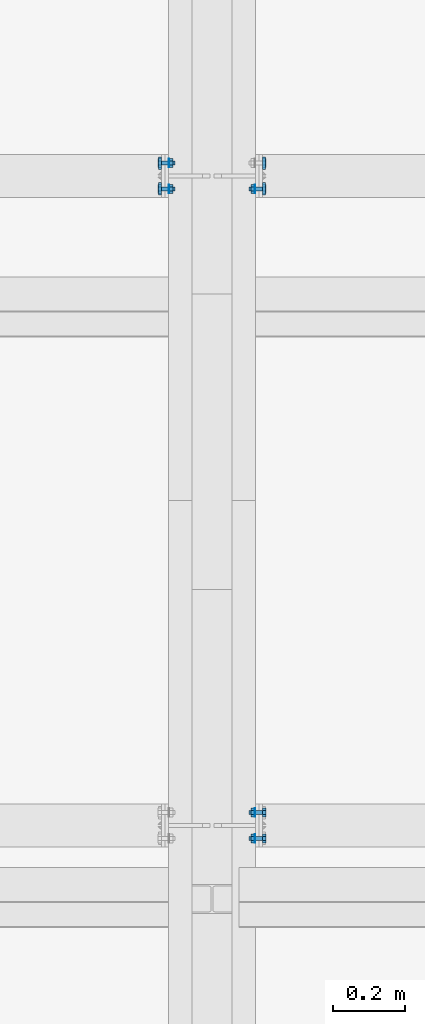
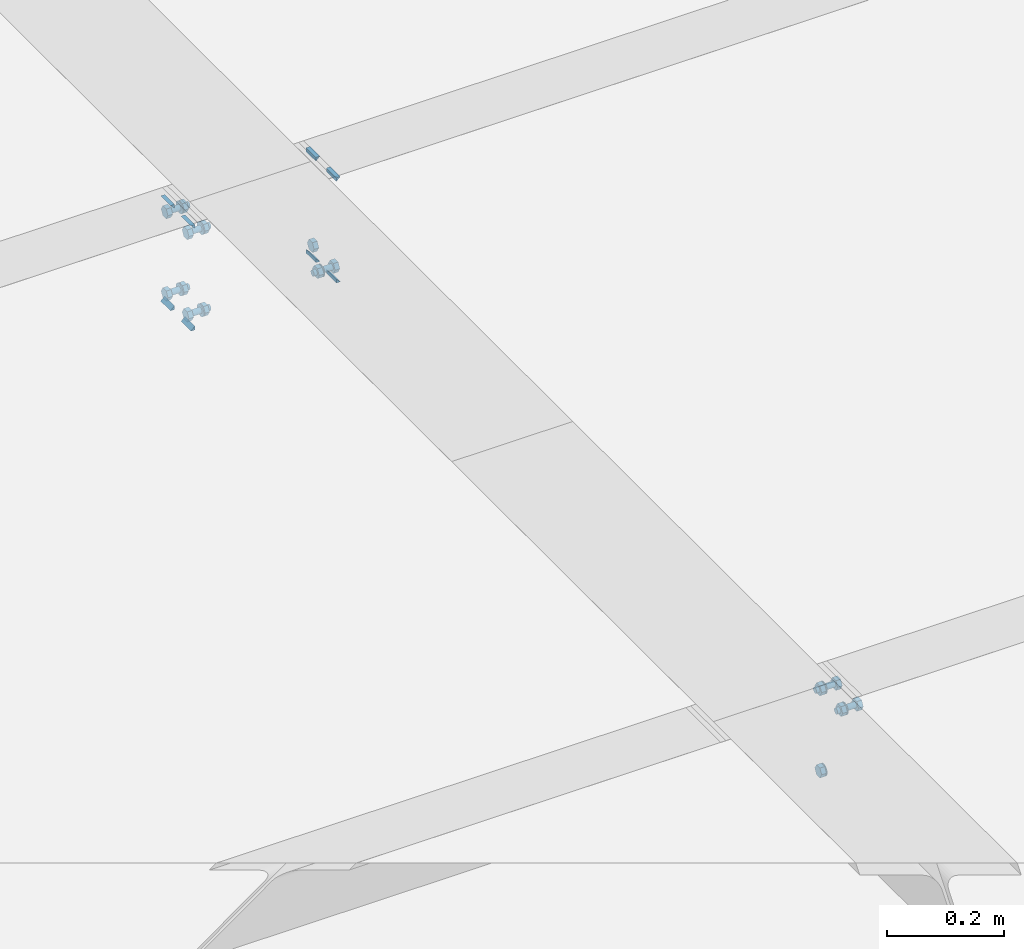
# One storey, part 38 of 66: 31 mechanical fasteners, 16 fasteners.
"""IFC4 building model written with IfcOpenShell, lengths in metres."""

from ifc_helpers import new_model, si_unit, frame, origin_with_axes, place, context, project, spatial, polyline, outline, extrude, type_object, element, save


model = new_model("IFC4")

# Units and contexts
model_context = context("Model", 3, precision=1e-05, world=origin_with_axes())
ifc_project = project(units=[si_unit("LENGTHUNIT", "METRE"), si_unit("AREAUNIT", "SQUARE_METRE"), si_unit("VOLUMEUNIT", "CUBIC_METRE"), si_unit("MASSUNIT", "GRAM", prefix="KILO"), si_unit("TIMEUNIT", "SECOND"), si_unit("PLANEANGLEUNIT", "RADIAN"), si_unit("SOLIDANGLEUNIT", "STERADIAN"), si_unit("THERMODYNAMICTEMPERATUREUNIT", "DEGREE_CELSIUS")], contexts=[model_context])

# Site, building, storey
placement_1 = place(None, origin_with_axes())
site = spatial("IfcSite", under=ifc_project, at=placement_1, Name="Italia", CompositionType="ELEMENT")
building = spatial("IfcBuilding", under=site, at=placement_1, Name="Uffici", CompositionType="ELEMENT")
storey_placement = place(None, frame((0.0, 0.0, 3.299999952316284), z_axis=(0.0, 0.0, 1.0), x_axis=(1.0, 0.0, 0.0)))
storey = spatial("IfcBuildingStorey", under=building, at=storey_placement, Name="Storey 1", CompositionType="ELEMENT", Elevation=3.299999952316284)

# Mechanical fasteners
mechanical_fastener_type_1 = type_object("IfcMechanicalFastenerType", Name="Collegamento -003_-004", PredefinedType="BOLT")
placement_2 = place(placement_1, origin_with_axes())
mechanical_fastener_1_placement = place(placement_2, origin_with_axes())
element("IfcMechanicalFastener", 1, at=mechanical_fastener_1_placement, inside=storey, type_object=mechanical_fastener_type_1, Name="Collegamento -003_-004", NominalDiameter=0.0119999, context=model_context, shape_type="SweptSolid", body=[
    extrude(outline(polyline([(0.0, 0.0), (-0.0120001, 0.0), (-0.018, 0.0103924), (-0.0120001, 0.0207846), (0.0, 0.0207846), (0.00599992, 0.0103924), (0.0, 0.0)])), frame((6.8634, 1.83867, 3.08361), z_axis=(1.0, 0.0, 0.0), x_axis=(0.0, 1.0, 0.0)), (0.0, 0.0, 1.0), 0.00960016),
])
mechanical_fastener_type_2 = type_object("IfcMechanicalFastenerType", Name="Collegamento -003_-004", PredefinedType="BOLT")
mechanical_fastener_2_placement = place(placement_2, origin_with_axes())
element("IfcMechanicalFastener", 2, at=mechanical_fastener_2_placement, inside=storey, type_object=mechanical_fastener_type_2, Name="Collegamento -003_-004", NominalDiameter=0.024, context=model_context, shape_type="SweptSolid", body=[
    extrude(outline(polyline([(0.0, 0.0), (-0.000408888, -0.00310588), (-0.00160766, -0.00600004), (-0.00351465, -0.00848532), (-0.00599992, -0.0103922), (-0.00889409, -0.0115912), (-0.012, -0.0120001), (-0.0151058, -0.0115912), (-0.018, -0.0103922), (-0.0204853, -0.00848532), (-0.0223923, -0.00600004), (-0.023591, -0.00310588), (-0.0239999, 0.0), (-0.023591, 0.00310588), (-0.0223923, 0.00600004), (-0.0204853, 0.00848532), (-0.018, 0.0103922), (-0.0151058, 0.0115912), (-0.012, 0.0120001), (-0.00889409, 0.0115912), (-0.00599992, 0.0103922), (-0.00351465, 0.00848532), (-0.00160766, 0.00600004), (-0.000408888, 0.00310588), (0.0, 0.0)])), frame((6.873, 1.84467, 3.094), z_axis=(1.0, 0.0, 0.0), x_axis=(0.0, 1.0, 0.0)), (0.0, 0.0, 1.0), 0.00199986),
])
mechanical_fastener_type_3 = type_object("IfcMechanicalFastenerType", Name="Collegamento -003_-004", PredefinedType="BOLT")
mechanical_fastener_3_placement = place(placement_2, origin_with_axes())
element("IfcMechanicalFastener", 3, at=mechanical_fastener_3_placement, inside=storey, type_object=mechanical_fastener_type_3, Name="Collegamento -003_-004", NominalDiameter=0.0119999, context=model_context, shape_type="SweptSolid", body=[
    extrude(outline(polyline([(0.0, 0.0), (-0.0120001, 0.0), (-0.018, 0.0103922), (-0.0120001, 0.0207846), (0.0, 0.0207846), (0.00599992, 0.0103922), (0.0, 0.0)])), frame((6.895, 1.76667, 3.25561), z_axis=(1.0, 0.0, 0.0), x_axis=(0.0, 1.0, 0.0)), (0.0, 0.0, 1.0), 0.00960016),
])
mechanical_fastener_type_4 = type_object("IfcMechanicalFastenerType", Name="Collegamento -003_-004", PredefinedType="BOLT")
mechanical_fastener_4_placement = place(placement_2, origin_with_axes())
element("IfcMechanicalFastener", 4, at=mechanical_fastener_4_placement, inside=storey, type_object=mechanical_fastener_type_4, Name="Collegamento -003_-004", NominalDiameter=0.012, context=model_context, shape_type="SweptSolid", body=[
    extrude(outline(polyline([(0.0, 0.0), (-0.000204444, -0.00155282), (-0.000803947, -0.00300002), (-0.00175738, -0.00424266), (-0.00300002, -0.00519609), (-0.0044471, -0.00579548), (-0.00600004, -0.00600004), (-0.00755298, -0.00579548), (-0.00900006, -0.00519609), (-0.0102427, -0.00424266), (-0.0111961, -0.00300002), (-0.0117956, -0.00155282), (-0.0120001, 0.0), (-0.0117956, 0.00155282), (-0.0111961, 0.00300002), (-0.0102427, 0.00424266), (-0.00900006, 0.00519609), (-0.00755298, 0.00579548), (-0.00600004, 0.00600004), (-0.0044471, 0.00579548), (-0.00300002, 0.00519609), (-0.00175738, 0.00424266), (-0.000803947, 0.00300002), (-0.000204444, 0.00155282), (0.0, 0.0)])), frame((6.857, 1.76667, 3.266), z_axis=(1.0, 0.0, 0.0), x_axis=(0.0, 1.0, 0.0)), (0.0, 0.0, 1.0), 0.0380001),
])
mechanical_fastener_type_5 = type_object("IfcMechanicalFastenerType", Name="Collegamento -003_-004", PredefinedType="BOLT")
mechanical_fastener_5_placement = place(placement_2, origin_with_axes())
element("IfcMechanicalFastener", 5, at=mechanical_fastener_5_placement, inside=storey, type_object=mechanical_fastener_type_5, Name="Collegamento -003_-004", NominalDiameter=0.0119999, context=model_context, shape_type="SweptSolid", body=[
    extrude(outline(polyline([(0.0, 0.0), (-0.0120001, 0.0), (-0.018, 0.0103922), (-0.0120001, 0.0207846), (0.0, 0.0207846), (0.00599992, 0.0103922), (0.0, 0.0)])), frame((6.8634, 1.76667, 3.25561), z_axis=(1.0, 0.0, 0.0), x_axis=(0.0, 1.0, 0.0)), (0.0, 0.0, 1.0), 0.00960016),
])
mechanical_fastener_type_6 = type_object("IfcMechanicalFastenerType", Name="Collegamento -003_-004", PredefinedType="BOLT")
mechanical_fastener_6_placement = place(placement_2, origin_with_axes())
element("IfcMechanicalFastener", 6, at=mechanical_fastener_6_placement, inside=storey, type_object=mechanical_fastener_type_6, Name="Collegamento -003_-004", NominalDiameter=0.024, context=model_context, shape_type="SweptSolid", body=[
    extrude(outline(polyline([(0.0, 0.0), (-0.000408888, -0.00310588), (-0.00160766, -0.00600004), (-0.00351465, -0.00848532), (-0.00599992, -0.0103922), (-0.00889409, -0.0115912), (-0.012, -0.0120001), (-0.0151058, -0.0115912), (-0.018, -0.0103922), (-0.0204853, -0.00848532), (-0.0223923, -0.00600004), (-0.023591, -0.00310588), (-0.0239999, 0.0), (-0.023591, 0.00310588), (-0.0223923, 0.00600004), (-0.0204853, 0.00848532), (-0.018, 0.0103922), (-0.0151058, 0.0115912), (-0.012, 0.0120001), (-0.00889409, 0.0115912), (-0.00599992, 0.0103922), (-0.00351465, 0.00848532), (-0.00160766, 0.00600004), (-0.000408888, 0.00310588), (0.0, 0.0)])), frame((6.873, 1.77267, 3.266), z_axis=(1.0, 0.0, 0.0), x_axis=(0.0, 1.0, 0.0)), (0.0, 0.0, 1.0), 0.00199986),
])
mechanical_fastener_type_7 = type_object("IfcMechanicalFastenerType", Name="Collegamento -003_-004", PredefinedType="BOLT")
mechanical_fastener_7_placement = place(placement_2, origin_with_axes())
element("IfcMechanicalFastener", 7, at=mechanical_fastener_7_placement, inside=storey, type_object=mechanical_fastener_type_7, Name="Collegamento -003_-004", NominalDiameter=0.0119999, context=model_context, shape_type="SweptSolid", body=[
    extrude(outline(polyline([(0.0, 0.0), (-0.0120001, 0.0), (-0.018, 0.0103922), (-0.0120001, 0.0207846), (0.0, 0.0207846), (0.00599992, 0.0103922), (0.0, 0.0)])), frame((6.895, 1.83867, 3.25561), z_axis=(1.0, 0.0, 0.0), x_axis=(0.0, 1.0, 0.0)), (0.0, 0.0, 1.0), 0.00960016),
])
mechanical_fastener_type_8 = type_object("IfcMechanicalFastenerType", Name="Collegamento -003_-004", PredefinedType="BOLT")
mechanical_fastener_8_placement = place(placement_2, origin_with_axes())
element("IfcMechanicalFastener", 8, at=mechanical_fastener_8_placement, inside=storey, type_object=mechanical_fastener_type_8, Name="Collegamento -003_-004", NominalDiameter=0.012, context=model_context, shape_type="SweptSolid", body=[
    extrude(outline(polyline([(0.0, 0.0), (-0.000204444, -0.00155282), (-0.000803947, -0.00300002), (-0.00175738, -0.00424266), (-0.00300002, -0.00519609), (-0.0044471, -0.00579548), (-0.00600004, -0.00600004), (-0.00755298, -0.00579548), (-0.00900006, -0.00519609), (-0.0102427, -0.00424266), (-0.0111961, -0.00300002), (-0.0117956, -0.00155282), (-0.0120001, 0.0), (-0.0117956, 0.00155282), (-0.0111961, 0.00300002), (-0.0102427, 0.00424266), (-0.00900006, 0.00519609), (-0.00755298, 0.00579548), (-0.00600004, 0.00600004), (-0.0044471, 0.00579548), (-0.00300002, 0.00519609), (-0.00175738, 0.00424266), (-0.000803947, 0.00300002), (-0.000204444, 0.00155282), (0.0, 0.0)])), frame((6.857, 1.83867, 3.266), z_axis=(1.0, 0.0, 0.0), x_axis=(0.0, 1.0, 0.0)), (0.0, 0.0, 1.0), 0.0380001),
])
mechanical_fastener_type_9 = type_object("IfcMechanicalFastenerType", Name="Collegamento -003_-004", PredefinedType="BOLT")
mechanical_fastener_9_placement = place(placement_2, origin_with_axes())
element("IfcMechanicalFastener", 9, at=mechanical_fastener_9_placement, inside=storey, type_object=mechanical_fastener_type_9, Name="Collegamento -003_-004", NominalDiameter=0.0119999, context=model_context, shape_type="SweptSolid", body=[
    extrude(outline(polyline([(0.0, 0.0), (-0.0120001, 0.0), (-0.018, 0.0103922), (-0.0120001, 0.0207846), (0.0, 0.0207846), (0.00599992, 0.0103922), (0.0, 0.0)])), frame((6.8634, 1.83867, 3.25561), z_axis=(1.0, 0.0, 0.0), x_axis=(0.0, 1.0, 0.0)), (0.0, 0.0, 1.0), 0.00960016),
])
mechanical_fastener_type_10 = type_object("IfcMechanicalFastenerType", Name="Collegamento -003_-004", PredefinedType="BOLT")
mechanical_fastener_10_placement = place(placement_2, origin_with_axes())
element("IfcMechanicalFastener", 10, at=mechanical_fastener_10_placement, inside=storey, type_object=mechanical_fastener_type_10, Name="Collegamento -003_-004", NominalDiameter=0.024, context=model_context, shape_type="SweptSolid", body=[
    extrude(outline(polyline([(0.0, 0.0), (-0.000408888, -0.00310588), (-0.00160766, -0.00600004), (-0.00351465, -0.00848532), (-0.00599992, -0.0103922), (-0.00889409, -0.0115912), (-0.012, -0.0120001), (-0.0151058, -0.0115912), (-0.018, -0.0103922), (-0.0204853, -0.00848532), (-0.0223923, -0.00600004), (-0.023591, -0.00310588), (-0.0239999, 0.0), (-0.023591, 0.00310588), (-0.0223923, 0.00600004), (-0.0204853, 0.00848532), (-0.018, 0.0103922), (-0.0151058, 0.0115912), (-0.012, 0.0120001), (-0.00889409, 0.0115912), (-0.00599992, 0.0103922), (-0.00351465, 0.00848532), (-0.00160766, 0.00600004), (-0.000408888, 0.00310588), (0.0, 0.0)])), frame((6.873, 1.84467, 3.266), z_axis=(1.0, 0.0, 0.0), x_axis=(0.0, 1.0, 0.0)), (0.0, 0.0, 1.0), 0.00199986),
])

# Fasteners
fastener_type_1 = type_object("IfcFastenerType", Name="Collegamento -013_-012", PredefinedType="WELD")
fastener_1_placement = place(placement_2, origin_with_axes())
element("IfcFastener", 11, at=fastener_1_placement, inside=storey, type_object=fastener_type_1, Name="Collegamento -013_-012", context=model_context, shape_type="SweptSolid", body=[
    extrude(outline(polyline([(0.0, 0.0), (-0.00817347, 0.00792813), (0.0, 0.00792813), (0.0, 0.0)])), frame((6.61505, 3.57528, 3.28232), z_axis=(0.0, -1.0, 0.0), x_axis=(1.0, 0.0, 0.0)), (0.0, 0.0, 1.0), 0.0339999),
])
fastener_type_2 = type_object("IfcFastenerType", Name="Collegamento -013_-012", PredefinedType="WELD")
fastener_2_placement = place(placement_2, origin_with_axes())
element("IfcFastener", 12, at=fastener_2_placement, inside=storey, type_object=fastener_type_2, Name="Collegamento -013_-012", context=model_context, shape_type="SweptSolid", body=[
    extrude(outline(polyline([(0.0, 0.0), (0.00817347, -0.00792813), (0.0, -0.00792813), (0.0, 0.0)])), frame((6.61505, 3.54128, 3.07768), z_axis=(0.0, 1.0, 0.0), x_axis=(-1.0, 0.0, 0.0)), (0.0, 0.0, 1.0), 0.0339999),
])
fastener_type_3 = type_object("IfcFastenerType", Name="Collegamento -013_-012", PredefinedType="WELD")
fastener_3_placement = place(placement_2, origin_with_axes())
element("IfcFastener", 13, at=fastener_3_placement, inside=storey, type_object=fastener_type_3, Name="Collegamento -013_-012", context=model_context, shape_type="SweptSolid", body=[
    extrude(outline(polyline([(0.0, 0.0), (0.00817347, -0.00792813), (0.0, -0.00792813), (0.0, 0.0)])), frame((6.61505, 3.61138, 3.07768), z_axis=(0.0, 1.0, 0.0), x_axis=(-1.0, 0.0, 0.0)), (0.0, 0.0, 1.0), 0.0339999),
])
fastener_type_4 = type_object("IfcFastenerType", Name="Collegamento -013_-012", PredefinedType="WELD")
fastener_4_placement = place(placement_2, origin_with_axes())
element("IfcFastener", 14, at=fastener_4_placement, inside=storey, type_object=fastener_type_4, Name="Collegamento -013_-012", context=model_context, shape_type="SweptSolid", body=[
    extrude(outline(polyline([(0.0, 0.0), (-0.00817347, 0.00792813), (0.0, 0.00792813), (0.0, 0.0)])), frame((6.61505, 3.64538, 3.28232), z_axis=(0.0, -1.0, 0.0), x_axis=(1.0, 0.0, 0.0)), (0.0, 0.0, 1.0), 0.0339999),
])
fastener_type_5 = type_object("IfcFastenerType", Name="Collegamento -013_-012", PredefinedType="WELD")
fastener_5_placement = place(placement_2, origin_with_axes())
element("IfcFastener", 15, at=fastener_5_placement, inside=storey, type_object=fastener_type_5, Name="Collegamento -013_-012", context=model_context, shape_type="SweptSolid", body=[
    extrude(outline(polyline([(0.0, 0.0), (-0.00817347, 0.00792813), (0.0, 0.00792813), (0.0, 0.0)])), frame((6.61505, 3.57528, 3.28232), z_axis=(0.0, -1.0, 0.0), x_axis=(1.0, 0.0, 0.0)), (0.0, 0.0, 1.0), 0.0339999),
])
fastener_type_6 = type_object("IfcFastenerType", Name="Collegamento -013_-012", PredefinedType="WELD")
fastener_6_placement = place(placement_2, origin_with_axes())
element("IfcFastener", 16, at=fastener_6_placement, inside=storey, type_object=fastener_type_6, Name="Collegamento -013_-012", context=model_context, shape_type="SweptSolid", body=[
    extrude(outline(polyline([(0.0, 0.0), (0.00817347, -0.00792813), (0.0, -0.00792813), (0.0, 0.0)])), frame((6.61505, 3.54128, 3.07768), z_axis=(0.0, 1.0, 0.0), x_axis=(-1.0, 0.0, 0.0)), (0.0, 0.0, 1.0), 0.0339999),
])
fastener_type_7 = type_object("IfcFastenerType", Name="Collegamento -013_-012", PredefinedType="WELD")
fastener_7_placement = place(placement_2, origin_with_axes())
element("IfcFastener", 17, at=fastener_7_placement, inside=storey, type_object=fastener_type_7, Name="Collegamento -013_-012", context=model_context, shape_type="SweptSolid", body=[
    extrude(outline(polyline([(0.0, 0.0), (0.00817347, -0.00792813), (0.0, -0.00792813), (0.0, 0.0)])), frame((6.61505, 3.61138, 3.07768), z_axis=(0.0, 1.0, 0.0), x_axis=(-1.0, 0.0, 0.0)), (0.0, 0.0, 1.0), 0.0339999),
])
fastener_type_8 = type_object("IfcFastenerType", Name="Collegamento -013_-012", PredefinedType="WELD")
fastener_8_placement = place(placement_2, origin_with_axes())
element("IfcFastener", 18, at=fastener_8_placement, inside=storey, type_object=fastener_type_8, Name="Collegamento -013_-012", context=model_context, shape_type="SweptSolid", body=[
    extrude(outline(polyline([(0.0, 0.0), (-0.00817347, 0.00792813), (0.0, 0.00792813), (0.0, 0.0)])), frame((6.61505, 3.64538, 3.28232), z_axis=(0.0, -1.0, 0.0), x_axis=(1.0, 0.0, 0.0)), (0.0, 0.0, 1.0), 0.0339999),
])

# Mechanical fasteners
mechanical_fastener_type_11 = type_object("IfcMechanicalFastenerType", Name="Collegamento -013_-012", PredefinedType="BOLT")
mechanical_fastener_11_placement = place(placement_2, origin_with_axes())
element("IfcMechanicalFastener", 19, at=mechanical_fastener_11_placement, inside=storey, type_object=mechanical_fastener_type_11, Name="Collegamento -013_-012", NominalDiameter=0.0119999, context=model_context, shape_type="SweptSolid", body=[
    extrude(outline(polyline([(0.0, 0.0), (-0.0120001, 0.0), (-0.0180001, 0.0103924), (-0.0120001, 0.0207846), (0.0, 0.0207846), (0.00600004, 0.0103924), (0.0, 0.0)])), frame((6.615, 3.62333, 3.08361), z_axis=(-1.0, 0.0, 0.0), x_axis=(0.0, -1.0, 0.0)), (0.0, 0.0, 1.0), 0.00960016),
])
mechanical_fastener_type_12 = type_object("IfcMechanicalFastenerType", Name="Collegamento -013_-012", PredefinedType="BOLT")
mechanical_fastener_12_placement = place(placement_2, origin_with_axes())
element("IfcMechanicalFastener", 20, at=mechanical_fastener_12_placement, inside=storey, type_object=mechanical_fastener_type_12, Name="Collegamento -013_-012", NominalDiameter=0.012, context=model_context, shape_type="SweptSolid", body=[
    extrude(outline(polyline([(0.0, 0.0), (-0.000204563, -0.00155282), (-0.000803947, -0.00300002), (-0.00175738, -0.00424266), (-0.00300002, -0.00519609), (-0.00444722, -0.00579548), (-0.00600004, -0.00600004), (-0.00755286, -0.00579548), (-0.00900006, -0.00519609), (-0.0102427, -0.00424266), (-0.0111961, -0.00300002), (-0.0117955, -0.00155282), (-0.0120001, 0.0), (-0.0117955, 0.00155282), (-0.0111961, 0.00300002), (-0.0102427, 0.00424266), (-0.00900006, 0.00519609), (-0.00755286, 0.00579548), (-0.00600004, 0.00600004), (-0.00444722, 0.00579548), (-0.00300002, 0.00519609), (-0.00175738, 0.00424266), (-0.000803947, 0.00300002), (-0.000204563, 0.00155282), (0.0, 0.0)])), frame((6.653, 3.62333, 3.094), z_axis=(-1.0, 0.0, 0.0), x_axis=(0.0, -1.0, 0.0)), (0.0, 0.0, 1.0), 0.0380001),
])
mechanical_fastener_type_13 = type_object("IfcMechanicalFastenerType", Name="Collegamento -013_-012", PredefinedType="BOLT")
mechanical_fastener_13_placement = place(placement_2, origin_with_axes())
element("IfcMechanicalFastener", 21, at=mechanical_fastener_13_placement, inside=storey, type_object=mechanical_fastener_type_13, Name="Collegamento -013_-012", NominalDiameter=0.0119999, context=model_context, shape_type="SweptSolid", body=[
    extrude(outline(polyline([(0.0, 0.0), (-0.0120001, 0.0), (-0.0180001, 0.0103924), (-0.0120001, 0.0207846), (0.0, 0.0207846), (0.00600004, 0.0103924), (0.0, 0.0)])), frame((6.6466, 3.62333, 3.08361), z_axis=(-1.0, 0.0, 0.0), x_axis=(0.0, -1.0, 0.0)), (0.0, 0.0, 1.0), 0.00960016),
])
mechanical_fastener_type_14 = type_object("IfcMechanicalFastenerType", Name="Collegamento -013_-012", PredefinedType="BOLT")
mechanical_fastener_14_placement = place(placement_2, origin_with_axes())
element("IfcMechanicalFastener", 22, at=mechanical_fastener_14_placement, inside=storey, type_object=mechanical_fastener_type_14, Name="Collegamento -013_-012", NominalDiameter=0.024, context=model_context, shape_type="SweptSolid", body=[
    extrude(outline(polyline([(0.0, 0.0), (-0.000408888, -0.00310588), (-0.00160789, -0.00600004), (-0.00351477, -0.00848532), (-0.00600004, -0.0103922), (-0.00889421, -0.0115912), (-0.0120001, -0.0120001), (-0.015106, -0.0115912), (-0.0180001, -0.0103922), (-0.0204854, -0.00848532), (-0.0223923, -0.00600004), (-0.0235913, -0.00310588), (-0.0240002, 0.0), (-0.0235913, 0.00310588), (-0.0223923, 0.00600004), (-0.0204854, 0.00848532), (-0.0180001, 0.0103922), (-0.015106, 0.0115912), (-0.0120001, 0.0120001), (-0.00889421, 0.0115912), (-0.00600004, 0.0103922), (-0.00351477, 0.00848532), (-0.00160789, 0.00600004), (-0.000408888, 0.00310588), (0.0, 0.0)])), frame((6.637, 3.61733, 3.094), z_axis=(-1.0, 0.0, 0.0), x_axis=(0.0, -1.0, 0.0)), (0.0, 0.0, 1.0), 0.00199986),
])
mechanical_fastener_type_15 = type_object("IfcMechanicalFastenerType", Name="Collegamento -013_-012", PredefinedType="BOLT")
mechanical_fastener_15_placement = place(placement_2, origin_with_axes())
element("IfcMechanicalFastener", 23, at=mechanical_fastener_15_placement, inside=storey, type_object=mechanical_fastener_type_15, Name="Collegamento -013_-012", NominalDiameter=0.0119999, context=model_context, shape_type="SweptSolid", body=[
    extrude(outline(polyline([(0.0, 0.0), (-0.0120001, 0.0), (-0.0180001, 0.0103924), (-0.0120001, 0.0207846), (0.0, 0.0207846), (0.00600004, 0.0103924), (0.0, 0.0)])), frame((6.615, 3.55133, 3.08361), z_axis=(-1.0, 0.0, 0.0), x_axis=(0.0, -1.0, 0.0)), (0.0, 0.0, 1.0), 0.00960016),
])
mechanical_fastener_type_16 = type_object("IfcMechanicalFastenerType", Name="Collegamento -013_-012", PredefinedType="BOLT")
mechanical_fastener_16_placement = place(placement_2, origin_with_axes())
element("IfcMechanicalFastener", 24, at=mechanical_fastener_16_placement, inside=storey, type_object=mechanical_fastener_type_16, Name="Collegamento -013_-012", NominalDiameter=0.012, context=model_context, shape_type="SweptSolid", body=[
    extrude(outline(polyline([(0.0, 0.0), (-0.000204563, -0.00155282), (-0.000803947, -0.00300002), (-0.00175738, -0.00424266), (-0.00300002, -0.00519609), (-0.00444722, -0.00579548), (-0.00600004, -0.00600004), (-0.00755286, -0.00579548), (-0.00900006, -0.00519609), (-0.0102427, -0.00424266), (-0.0111961, -0.00300002), (-0.0117955, -0.00155282), (-0.0120001, 0.0), (-0.0117955, 0.00155282), (-0.0111961, 0.00300002), (-0.0102427, 0.00424266), (-0.00900006, 0.00519609), (-0.00755286, 0.00579548), (-0.00600004, 0.00600004), (-0.00444722, 0.00579548), (-0.00300002, 0.00519609), (-0.00175738, 0.00424266), (-0.000803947, 0.00300002), (-0.000204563, 0.00155282), (0.0, 0.0)])), frame((6.653, 3.55133, 3.094), z_axis=(-1.0, 0.0, 0.0), x_axis=(0.0, -1.0, 0.0)), (0.0, 0.0, 1.0), 0.0380001),
])
mechanical_fastener_type_17 = type_object("IfcMechanicalFastenerType", Name="Collegamento -013_-012", PredefinedType="BOLT")
mechanical_fastener_17_placement = place(placement_2, origin_with_axes())
element("IfcMechanicalFastener", 25, at=mechanical_fastener_17_placement, inside=storey, type_object=mechanical_fastener_type_17, Name="Collegamento -013_-012", NominalDiameter=0.0119999, context=model_context, shape_type="SweptSolid", body=[
    extrude(outline(polyline([(0.0, 0.0), (-0.0120001, 0.0), (-0.0180001, 0.0103924), (-0.0120001, 0.0207846), (0.0, 0.0207846), (0.00600004, 0.0103924), (0.0, 0.0)])), frame((6.6466, 3.55133, 3.08361), z_axis=(-1.0, 0.0, 0.0), x_axis=(0.0, -1.0, 0.0)), (0.0, 0.0, 1.0), 0.00960016),
])
mechanical_fastener_type_18 = type_object("IfcMechanicalFastenerType", Name="Collegamento -013_-012", PredefinedType="BOLT")
mechanical_fastener_18_placement = place(placement_2, origin_with_axes())
element("IfcMechanicalFastener", 26, at=mechanical_fastener_18_placement, inside=storey, type_object=mechanical_fastener_type_18, Name="Collegamento -013_-012", NominalDiameter=0.024, context=model_context, shape_type="SweptSolid", body=[
    extrude(outline(polyline([(0.0, 0.0), (-0.000408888, -0.00310588), (-0.00160789, -0.00600004), (-0.00351477, -0.00848532), (-0.00600004, -0.0103922), (-0.00889421, -0.0115912), (-0.0120001, -0.0120001), (-0.015106, -0.0115912), (-0.0180001, -0.0103922), (-0.0204854, -0.00848532), (-0.0223923, -0.00600004), (-0.0235913, -0.00310588), (-0.0240002, 0.0), (-0.0235913, 0.00310588), (-0.0223923, 0.00600004), (-0.0204854, 0.00848532), (-0.0180001, 0.0103922), (-0.015106, 0.0115912), (-0.0120001, 0.0120001), (-0.00889421, 0.0115912), (-0.00600004, 0.0103922), (-0.00351477, 0.00848532), (-0.00160789, 0.00600004), (-0.000408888, 0.00310588), (0.0, 0.0)])), frame((6.637, 3.54533, 3.094), z_axis=(-1.0, 0.0, 0.0), x_axis=(0.0, -1.0, 0.0)), (0.0, 0.0, 1.0), 0.00199986),
])
mechanical_fastener_type_19 = type_object("IfcMechanicalFastenerType", Name="Collegamento -013_-012", PredefinedType="BOLT")
mechanical_fastener_19_placement = place(placement_2, origin_with_axes())
element("IfcMechanicalFastener", 27, at=mechanical_fastener_19_placement, inside=storey, type_object=mechanical_fastener_type_19, Name="Collegamento -013_-012", NominalDiameter=0.0119999, context=model_context, shape_type="SweptSolid", body=[
    extrude(outline(polyline([(0.0, 0.0), (-0.0120001, 0.0), (-0.0180001, 0.0103922), (-0.0120001, 0.0207846), (0.0, 0.0207846), (0.00600004, 0.0103922), (0.0, 0.0)])), frame((6.615, 3.62333, 3.25561), z_axis=(-1.0, 0.0, 0.0), x_axis=(0.0, -1.0, 0.0)), (0.0, 0.0, 1.0), 0.00960016),
])
mechanical_fastener_type_20 = type_object("IfcMechanicalFastenerType", Name="Collegamento -013_-012", PredefinedType="BOLT")
mechanical_fastener_20_placement = place(placement_2, origin_with_axes())
element("IfcMechanicalFastener", 28, at=mechanical_fastener_20_placement, inside=storey, type_object=mechanical_fastener_type_20, Name="Collegamento -013_-012", NominalDiameter=0.012, context=model_context, shape_type="SweptSolid", body=[
    extrude(outline(polyline([(0.0, 0.0), (-0.000204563, -0.00155282), (-0.000803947, -0.00300002), (-0.00175738, -0.00424266), (-0.00300002, -0.00519609), (-0.00444722, -0.00579548), (-0.00600004, -0.00600004), (-0.00755286, -0.00579548), (-0.00900006, -0.00519609), (-0.0102427, -0.00424266), (-0.0111961, -0.00300002), (-0.0117955, -0.00155282), (-0.0120001, 0.0), (-0.0117955, 0.00155282), (-0.0111961, 0.00300002), (-0.0102427, 0.00424266), (-0.00900006, 0.00519609), (-0.00755286, 0.00579548), (-0.00600004, 0.00600004), (-0.00444722, 0.00579548), (-0.00300002, 0.00519609), (-0.00175738, 0.00424266), (-0.000803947, 0.00300002), (-0.000204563, 0.00155282), (0.0, 0.0)])), frame((6.653, 3.62333, 3.266), z_axis=(-1.0, 0.0, 0.0), x_axis=(0.0, -1.0, 0.0)), (0.0, 0.0, 1.0), 0.0380001),
])
mechanical_fastener_type_21 = type_object("IfcMechanicalFastenerType", Name="Collegamento -013_-012", PredefinedType="BOLT")
mechanical_fastener_21_placement = place(placement_2, origin_with_axes())
element("IfcMechanicalFastener", 29, at=mechanical_fastener_21_placement, inside=storey, type_object=mechanical_fastener_type_21, Name="Collegamento -013_-012", NominalDiameter=0.0119999, context=model_context, shape_type="SweptSolid", body=[
    extrude(outline(polyline([(0.0, 0.0), (-0.0120001, 0.0), (-0.0180001, 0.0103922), (-0.0120001, 0.0207846), (0.0, 0.0207846), (0.00600004, 0.0103922), (0.0, 0.0)])), frame((6.6466, 3.62333, 3.25561), z_axis=(-1.0, 0.0, 0.0), x_axis=(0.0, -1.0, 0.0)), (0.0, 0.0, 1.0), 0.00960016),
])
mechanical_fastener_type_22 = type_object("IfcMechanicalFastenerType", Name="Collegamento -013_-012", PredefinedType="BOLT")
mechanical_fastener_22_placement = place(placement_2, origin_with_axes())
element("IfcMechanicalFastener", 30, at=mechanical_fastener_22_placement, inside=storey, type_object=mechanical_fastener_type_22, Name="Collegamento -013_-012", NominalDiameter=0.024, context=model_context, shape_type="SweptSolid", body=[
    extrude(outline(polyline([(0.0, 0.0), (-0.000408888, -0.00310588), (-0.00160789, -0.00600004), (-0.00351477, -0.00848532), (-0.00600004, -0.0103922), (-0.00889421, -0.0115912), (-0.0120001, -0.0120001), (-0.015106, -0.0115912), (-0.0180001, -0.0103922), (-0.0204854, -0.00848532), (-0.0223923, -0.00600004), (-0.0235913, -0.00310588), (-0.0240002, 0.0), (-0.0235913, 0.00310588), (-0.0223923, 0.00600004), (-0.0204854, 0.00848532), (-0.0180001, 0.0103922), (-0.015106, 0.0115912), (-0.0120001, 0.0120001), (-0.00889421, 0.0115912), (-0.00600004, 0.0103922), (-0.00351477, 0.00848532), (-0.00160789, 0.00600004), (-0.000408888, 0.00310588), (0.0, 0.0)])), frame((6.637, 3.61733, 3.266), z_axis=(-1.0, 0.0, 0.0), x_axis=(0.0, -1.0, 0.0)), (0.0, 0.0, 1.0), 0.00199986),
])
mechanical_fastener_type_23 = type_object("IfcMechanicalFastenerType", Name="Collegamento -013_-012", PredefinedType="BOLT")
mechanical_fastener_23_placement = place(placement_2, origin_with_axes())
element("IfcMechanicalFastener", 31, at=mechanical_fastener_23_placement, inside=storey, type_object=mechanical_fastener_type_23, Name="Collegamento -013_-012", NominalDiameter=0.0119999, context=model_context, shape_type="SweptSolid", body=[
    extrude(outline(polyline([(0.0, 0.0), (-0.0120001, 0.0), (-0.0180001, 0.0103922), (-0.0120001, 0.0207846), (0.0, 0.0207846), (0.00600004, 0.0103922), (0.0, 0.0)])), frame((6.615, 3.55133, 3.25561), z_axis=(-1.0, 0.0, 0.0), x_axis=(0.0, -1.0, 0.0)), (0.0, 0.0, 1.0), 0.00960016),
])
mechanical_fastener_type_24 = type_object("IfcMechanicalFastenerType", Name="Collegamento -013_-012", PredefinedType="BOLT")
mechanical_fastener_24_placement = place(placement_2, origin_with_axes())
element("IfcMechanicalFastener", 32, at=mechanical_fastener_24_placement, inside=storey, type_object=mechanical_fastener_type_24, Name="Collegamento -013_-012", NominalDiameter=0.012, context=model_context, shape_type="SweptSolid", body=[
    extrude(outline(polyline([(0.0, 0.0), (-0.000204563, -0.00155282), (-0.000803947, -0.00300002), (-0.00175738, -0.00424266), (-0.00300002, -0.00519609), (-0.00444722, -0.00579548), (-0.00600004, -0.00600004), (-0.00755286, -0.00579548), (-0.00900006, -0.00519609), (-0.0102427, -0.00424266), (-0.0111961, -0.00300002), (-0.0117955, -0.00155282), (-0.0120001, 0.0), (-0.0117955, 0.00155282), (-0.0111961, 0.00300002), (-0.0102427, 0.00424266), (-0.00900006, 0.00519609), (-0.00755286, 0.00579548), (-0.00600004, 0.00600004), (-0.00444722, 0.00579548), (-0.00300002, 0.00519609), (-0.00175738, 0.00424266), (-0.000803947, 0.00300002), (-0.000204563, 0.00155282), (0.0, 0.0)])), frame((6.653, 3.55133, 3.266), z_axis=(-1.0, 0.0, 0.0), x_axis=(0.0, -1.0, 0.0)), (0.0, 0.0, 1.0), 0.0380001),
])
mechanical_fastener_type_25 = type_object("IfcMechanicalFastenerType", Name="Collegamento -013_-012", PredefinedType="BOLT")
mechanical_fastener_25_placement = place(placement_2, origin_with_axes())
element("IfcMechanicalFastener", 33, at=mechanical_fastener_25_placement, inside=storey, type_object=mechanical_fastener_type_25, Name="Collegamento -013_-012", NominalDiameter=0.0119999, context=model_context, shape_type="SweptSolid", body=[
    extrude(outline(polyline([(0.0, 0.0), (-0.0120001, 0.0), (-0.0180001, 0.0103922), (-0.0120001, 0.0207846), (0.0, 0.0207846), (0.00600004, 0.0103922), (0.0, 0.0)])), frame((6.6466, 3.55133, 3.25561), z_axis=(-1.0, 0.0, 0.0), x_axis=(0.0, -1.0, 0.0)), (0.0, 0.0, 1.0), 0.00960016),
])
mechanical_fastener_type_26 = type_object("IfcMechanicalFastenerType", Name="Collegamento -013_-012", PredefinedType="BOLT")
mechanical_fastener_26_placement = place(placement_2, origin_with_axes())
element("IfcMechanicalFastener", 34, at=mechanical_fastener_26_placement, inside=storey, type_object=mechanical_fastener_type_26, Name="Collegamento -013_-012", NominalDiameter=0.024, context=model_context, shape_type="SweptSolid", body=[
    extrude(outline(polyline([(0.0, 0.0), (-0.000408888, -0.00310588), (-0.00160789, -0.00600004), (-0.00351477, -0.00848532), (-0.00600004, -0.0103922), (-0.00889421, -0.0115912), (-0.0120001, -0.0120001), (-0.015106, -0.0115912), (-0.0180001, -0.0103922), (-0.0204854, -0.00848532), (-0.0223923, -0.00600004), (-0.0235913, -0.00310588), (-0.0240002, 0.0), (-0.0235913, 0.00310588), (-0.0223923, 0.00600004), (-0.0204854, 0.00848532), (-0.0180001, 0.0103922), (-0.015106, 0.0115912), (-0.0120001, 0.0120001), (-0.00889421, 0.0115912), (-0.00600004, 0.0103922), (-0.00351477, 0.00848532), (-0.00160789, 0.00600004), (-0.000408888, 0.00310588), (0.0, 0.0)])), frame((6.637, 3.54533, 3.266), z_axis=(-1.0, 0.0, 0.0), x_axis=(0.0, -1.0, 0.0)), (0.0, 0.0, 1.0), 0.00199986),
])

# Fasteners
fastener_type_9 = type_object("IfcFastenerType", Name="Collegamento -013_-014", PredefinedType="WELD")
fastener_9_placement = place(placement_2, origin_with_axes())
element("IfcFastener", 35, at=fastener_9_placement, inside=storey, type_object=fastener_type_9, Name="Collegamento -013_-014", context=model_context, shape_type="SweptSolid", body=[
    extrude(outline(polyline([(0.0, 0.0), (-0.00817347, 0.00792813), (0.0, 0.00792813), (0.0, 0.0)])), frame((6.89495, 3.54128, 3.28232), z_axis=(0.0, 1.0, 0.0), x_axis=(-1.0, 0.0, 0.0)), (0.0, 0.0, 1.0), 0.0339999),
])
fastener_type_10 = type_object("IfcFastenerType", Name="Collegamento -013_-014", PredefinedType="WELD")
fastener_10_placement = place(placement_2, origin_with_axes())
element("IfcFastener", 36, at=fastener_10_placement, inside=storey, type_object=fastener_type_10, Name="Collegamento -013_-014", context=model_context, shape_type="SweptSolid", body=[
    extrude(outline(polyline([(0.0, 0.0), (0.00817347, -0.00792813), (0.0, -0.00792813), (0.0, 0.0)])), frame((6.89495, 3.57528, 3.07768), z_axis=(0.0, -1.0, 0.0), x_axis=(1.0, 0.0, 0.0)), (0.0, 0.0, 1.0), 0.0339999),
])
fastener_type_11 = type_object("IfcFastenerType", Name="Collegamento -013_-014", PredefinedType="WELD")
fastener_11_placement = place(placement_2, origin_with_axes())
element("IfcFastener", 37, at=fastener_11_placement, inside=storey, type_object=fastener_type_11, Name="Collegamento -013_-014", context=model_context, shape_type="SweptSolid", body=[
    extrude(outline(polyline([(0.0, 0.0), (0.00817347, -0.00792813), (0.0, -0.00792813), (0.0, 0.0)])), frame((6.89495, 3.64538, 3.07768), z_axis=(0.0, -1.0, 0.0), x_axis=(1.0, 0.0, 0.0)), (0.0, 0.0, 1.0), 0.0339999),
])
fastener_type_12 = type_object("IfcFastenerType", Name="Collegamento -013_-014", PredefinedType="WELD")
fastener_12_placement = place(placement_2, origin_with_axes())
element("IfcFastener", 38, at=fastener_12_placement, inside=storey, type_object=fastener_type_12, Name="Collegamento -013_-014", context=model_context, shape_type="SweptSolid", body=[
    extrude(outline(polyline([(0.0, 0.0), (-0.00817347, 0.00792813), (0.0, 0.00792813), (0.0, 0.0)])), frame((6.89495, 3.61138, 3.28232), z_axis=(0.0, 1.0, 0.0), x_axis=(-1.0, 0.0, 0.0)), (0.0, 0.0, 1.0), 0.0339999),
])
fastener_type_13 = type_object("IfcFastenerType", Name="Collegamento -013_-014", PredefinedType="WELD")
fastener_13_placement = place(placement_2, origin_with_axes())
element("IfcFastener", 39, at=fastener_13_placement, inside=storey, type_object=fastener_type_13, Name="Collegamento -013_-014", context=model_context, shape_type="SweptSolid", body=[
    extrude(outline(polyline([(0.0, 0.0), (-0.00817347, 0.00792813), (0.0, 0.00792813), (0.0, 0.0)])), frame((6.89495, 3.54128, 3.28232), z_axis=(0.0, 1.0, 0.0), x_axis=(-1.0, 0.0, 0.0)), (0.0, 0.0, 1.0), 0.0339999),
])
fastener_type_14 = type_object("IfcFastenerType", Name="Collegamento -013_-014", PredefinedType="WELD")
fastener_14_placement = place(placement_2, origin_with_axes())
element("IfcFastener", 40, at=fastener_14_placement, inside=storey, type_object=fastener_type_14, Name="Collegamento -013_-014", context=model_context, shape_type="SweptSolid", body=[
    extrude(outline(polyline([(0.0, 0.0), (0.00817347, -0.00792813), (0.0, -0.00792813), (0.0, 0.0)])), frame((6.89495, 3.57528, 3.07768), z_axis=(0.0, -1.0, 0.0), x_axis=(1.0, 0.0, 0.0)), (0.0, 0.0, 1.0), 0.0339999),
])
fastener_type_15 = type_object("IfcFastenerType", Name="Collegamento -013_-014", PredefinedType="WELD")
fastener_15_placement = place(placement_2, origin_with_axes())
element("IfcFastener", 41, at=fastener_15_placement, inside=storey, type_object=fastener_type_15, Name="Collegamento -013_-014", context=model_context, shape_type="SweptSolid", body=[
    extrude(outline(polyline([(0.0, 0.0), (0.00817347, -0.00792813), (0.0, -0.00792813), (0.0, 0.0)])), frame((6.89495, 3.64538, 3.07768), z_axis=(0.0, -1.0, 0.0), x_axis=(1.0, 0.0, 0.0)), (0.0, 0.0, 1.0), 0.0339999),
])
fastener_type_16 = type_object("IfcFastenerType", Name="Collegamento -013_-014", PredefinedType="WELD")
fastener_16_placement = place(placement_2, origin_with_axes())
element("IfcFastener", 42, at=fastener_16_placement, inside=storey, type_object=fastener_type_16, Name="Collegamento -013_-014", context=model_context, shape_type="SweptSolid", body=[
    extrude(outline(polyline([(0.0, 0.0), (-0.00817347, 0.00792813), (0.0, 0.00792813), (0.0, 0.0)])), frame((6.89495, 3.61138, 3.28232), z_axis=(0.0, 1.0, 0.0), x_axis=(-1.0, 0.0, 0.0)), (0.0, 0.0, 1.0), 0.0339999),
])

# Mechanical fasteners
mechanical_fastener_type_27 = type_object("IfcMechanicalFastenerType", Name="Collegamento -013_-014", PredefinedType="BOLT")
mechanical_fastener_27_placement = place(placement_2, origin_with_axes())
element("IfcMechanicalFastener", 43, at=mechanical_fastener_27_placement, inside=storey, type_object=mechanical_fastener_type_27, Name="Collegamento -013_-014", NominalDiameter=0.0119999, context=model_context, shape_type="SweptSolid", body=[
    extrude(outline(polyline([(0.0, 0.0), (-0.0120001, 0.0), (-0.0180001, 0.0103924), (-0.0120001, 0.0207846), (0.0, 0.0207846), (0.00600004, 0.0103924), (0.0, 0.0)])), frame((6.895, 3.56333, 3.08361), z_axis=(1.0, 0.0, 0.0), x_axis=(0.0, 1.0, 0.0)), (0.0, 0.0, 1.0), 0.00960016),
])
mechanical_fastener_type_28 = type_object("IfcMechanicalFastenerType", Name="Collegamento -013_-014", PredefinedType="BOLT")
mechanical_fastener_28_placement = place(placement_2, origin_with_axes())
element("IfcMechanicalFastener", 44, at=mechanical_fastener_28_placement, inside=storey, type_object=mechanical_fastener_type_28, Name="Collegamento -013_-014", NominalDiameter=0.012, context=model_context, shape_type="SweptSolid", body=[
    extrude(outline(polyline([(0.0, 0.0), (-0.000204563, -0.00155282), (-0.000803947, -0.00300002), (-0.00175738, -0.00424266), (-0.00300002, -0.00519609), (-0.00444722, -0.00579548), (-0.00600004, -0.00600004), (-0.00755286, -0.00579548), (-0.00900006, -0.00519609), (-0.0102427, -0.00424266), (-0.0111961, -0.00300002), (-0.0117955, -0.00155282), (-0.0120001, 0.0), (-0.0117955, 0.00155282), (-0.0111961, 0.00300002), (-0.0102427, 0.00424266), (-0.00900006, 0.00519609), (-0.00755286, 0.00579548), (-0.00600004, 0.00600004), (-0.00444722, 0.00579548), (-0.00300002, 0.00519609), (-0.00175738, 0.00424266), (-0.000803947, 0.00300002), (-0.000204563, 0.00155282), (0.0, 0.0)])), frame((6.857, 3.56333, 3.094), z_axis=(1.0, 0.0, 0.0), x_axis=(0.0, 1.0, 0.0)), (0.0, 0.0, 1.0), 0.0380001),
])
mechanical_fastener_type_29 = type_object("IfcMechanicalFastenerType", Name="Collegamento -013_-014", PredefinedType="BOLT")
mechanical_fastener_29_placement = place(placement_2, origin_with_axes())
element("IfcMechanicalFastener", 45, at=mechanical_fastener_29_placement, inside=storey, type_object=mechanical_fastener_type_29, Name="Collegamento -013_-014", NominalDiameter=0.0119999, context=model_context, shape_type="SweptSolid", body=[
    extrude(outline(polyline([(0.0, 0.0), (-0.0120001, 0.0), (-0.0180001, 0.0103924), (-0.0120001, 0.0207846), (0.0, 0.0207846), (0.00600004, 0.0103924), (0.0, 0.0)])), frame((6.8634, 3.56333, 3.08361), z_axis=(1.0, 0.0, 0.0), x_axis=(0.0, 1.0, 0.0)), (0.0, 0.0, 1.0), 0.00960016),
])
mechanical_fastener_type_30 = type_object("IfcMechanicalFastenerType", Name="Collegamento -013_-014", PredefinedType="BOLT")
mechanical_fastener_30_placement = place(placement_2, origin_with_axes())
element("IfcMechanicalFastener", 46, at=mechanical_fastener_30_placement, inside=storey, type_object=mechanical_fastener_type_30, Name="Collegamento -013_-014", NominalDiameter=0.024, context=model_context, shape_type="SweptSolid", body=[
    extrude(outline(polyline([(0.0, 0.0), (-0.000408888, -0.00310588), (-0.00160789, -0.00600004), (-0.00351477, -0.00848532), (-0.00600004, -0.0103922), (-0.00889421, -0.0115912), (-0.0120001, -0.0120001), (-0.015106, -0.0115912), (-0.0180001, -0.0103922), (-0.0204854, -0.00848532), (-0.0223923, -0.00600004), (-0.0235913, -0.00310588), (-0.0240002, 0.0), (-0.0235913, 0.00310588), (-0.0223923, 0.00600004), (-0.0204854, 0.00848532), (-0.0180001, 0.0103922), (-0.015106, 0.0115912), (-0.0120001, 0.0120001), (-0.00889421, 0.0115912), (-0.00600004, 0.0103922), (-0.00351477, 0.00848532), (-0.00160789, 0.00600004), (-0.000408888, 0.00310588), (0.0, 0.0)])), frame((6.873, 3.56933, 3.094), z_axis=(1.0, 0.0, 0.0), x_axis=(0.0, 1.0, 0.0)), (0.0, 0.0, 1.0), 0.00199986),
])
mechanical_fastener_type_31 = type_object("IfcMechanicalFastenerType", Name="Collegamento -013_-014", PredefinedType="BOLT")
mechanical_fastener_31_placement = place(placement_2, origin_with_axes())
element("IfcMechanicalFastener", 47, at=mechanical_fastener_31_placement, inside=storey, type_object=mechanical_fastener_type_31, Name="Collegamento -013_-014", NominalDiameter=0.0119999, context=model_context, shape_type="SweptSolid", body=[
    extrude(outline(polyline([(0.0, 0.0), (-0.0120001, 0.0), (-0.0180001, 0.0103924), (-0.0120001, 0.0207846), (0.0, 0.0207846), (0.00600004, 0.0103924), (0.0, 0.0)])), frame((6.895, 3.63533, 3.08361), z_axis=(1.0, 0.0, 0.0), x_axis=(0.0, 1.0, 0.0)), (0.0, 0.0, 1.0), 0.00960016),
])

save(model, "model.ifc")
